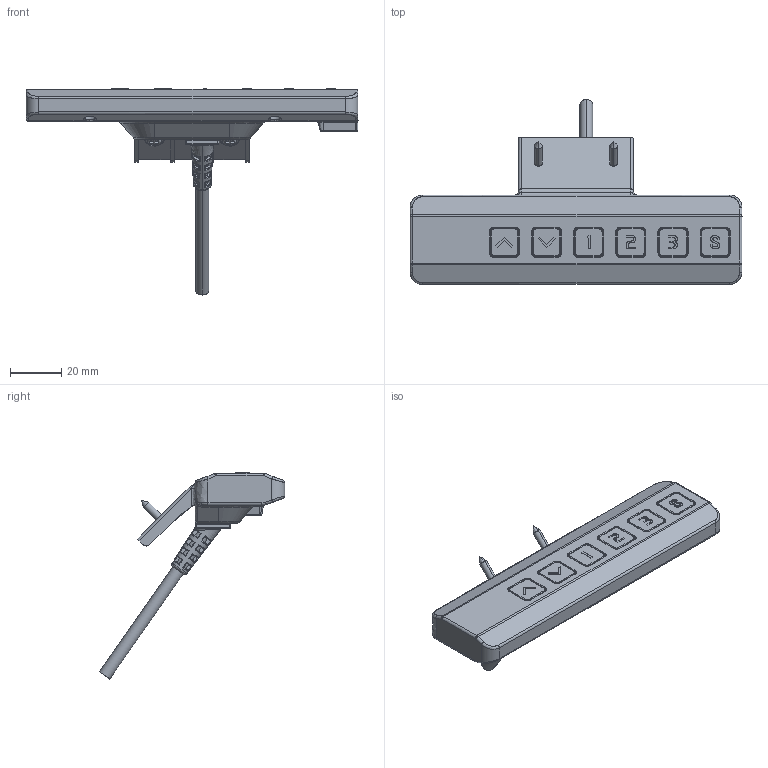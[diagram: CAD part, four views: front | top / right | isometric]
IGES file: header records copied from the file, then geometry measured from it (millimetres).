
Start section: SolidWorks IGES file using NURBS representation for surfaces
Global section: file name: C:\Users\lynn\Desktop\DP08-YOUUSB-0920.IGS; native system: SolidWorks 2015; preprocessor: SolidWorks 2015; author: lynn; date: 191121.161437; units: millimetre
Bounding box: 130 x 72.51 x 80.67 mm (x, y, z)
Surface area: 34787.4 mm2 (no closed solid volume)
Topology: 0 solids, 0 shells, 1514 faces, 12965 edges, 12959 vertices
Faces by surface type: bspline 1514
